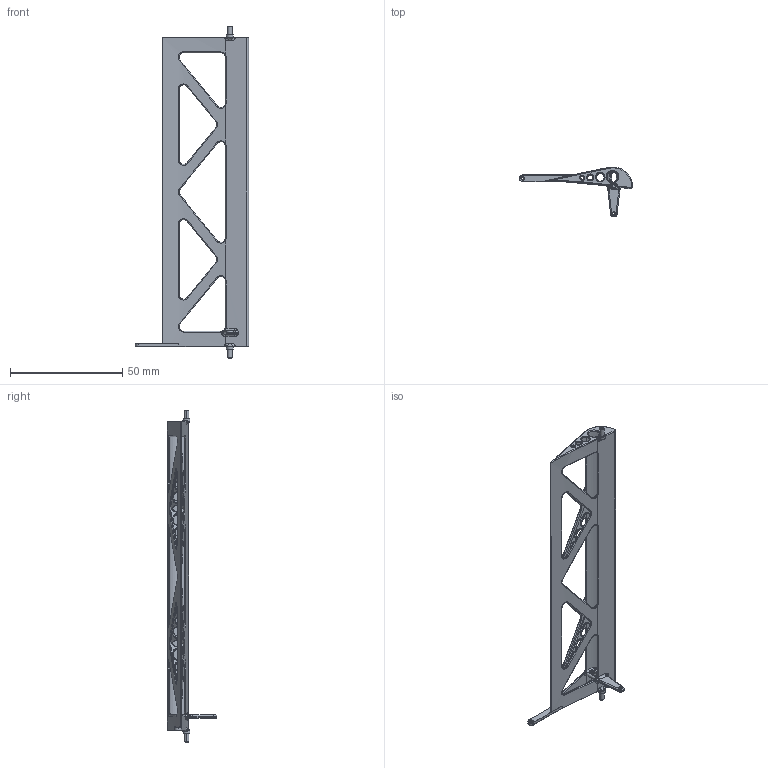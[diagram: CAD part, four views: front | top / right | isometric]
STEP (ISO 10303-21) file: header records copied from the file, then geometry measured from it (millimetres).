
FILE_DESCRIPTION (( 'STEP AP203' ), '1' );
FILE_NAME ('06-12-004-001.STEP', '2019-02-25T09:15:37', ( '' ), ( '' ), 'SwSTEP 2.0', 'SolidWorks 2014', '' );
FILE_SCHEMA (( 'CONFIG_CONTROL_DESIGN' ));
Length unit declared in the file: millimetre
Products named in the file (1): 06-12-004-001
Bounding box: 50.47 x 22.01 x 147.8 mm (x, y, z)
Volume: 5324.4 mm3; surface area: 14640.6 mm2
Topology: 1 solids, 1 shells, 563 faces, 1389 edges, 795 vertices
Faces by surface type: bspline 317, cylinder 111, torus 78, plane 40, sphere 17
Entity records: 31185 total; most frequent: CARTESIAN_POINT 20119, ORIENTED_EDGE 2742, DIRECTION 1812, EDGE_CURVE 1371, AXIS2_PLACEMENT_3D 823, VERTEX_POINT 787, EDGE_LOOP 606, CIRCLE 576
